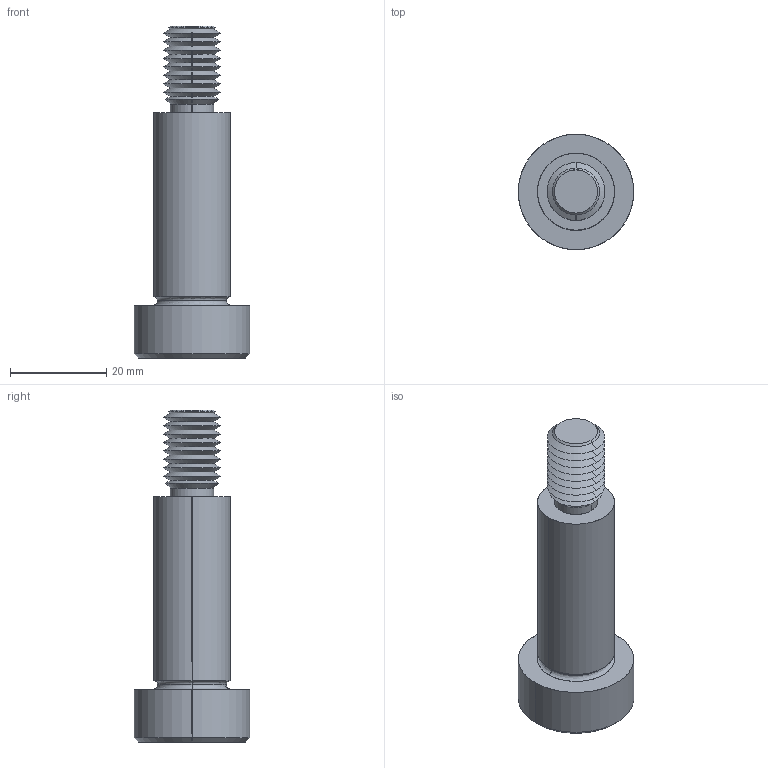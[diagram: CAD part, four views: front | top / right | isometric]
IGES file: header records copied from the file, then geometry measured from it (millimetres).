
Start section: SolidWorks IGES file using analytic representation for surfaces
Global section: file name: C:\Users\IanO\Documents\Temp Folder\GENERAL\SCREW REVISION\P0130_v2\P0130.T5_v2_20220106_IGES\P0130.160-040-T5.igs; native system: SolidWorks 2019; preprocessor: SolidWorks 2019; author: IanO; date: 220106.225410; units: millimetre
Bounding box: 24 x 24 x 69 mm (x, y, z)
Surface area: 5057.2 mm2 (no closed solid volume)
Topology: 0 solids, 0 shells, 76 faces, 588 edges, 586 vertices
Faces by surface type: revolution 56, bspline 20
